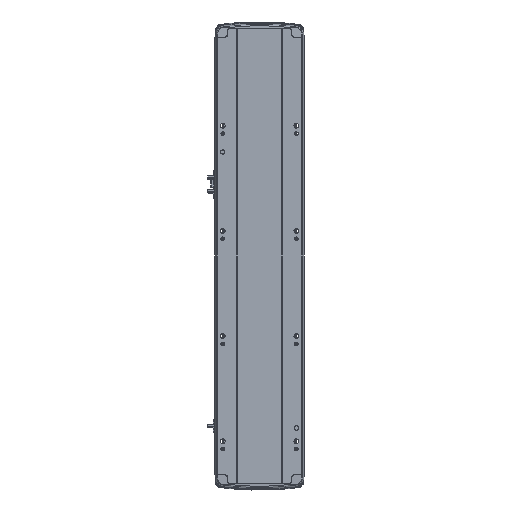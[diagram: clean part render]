
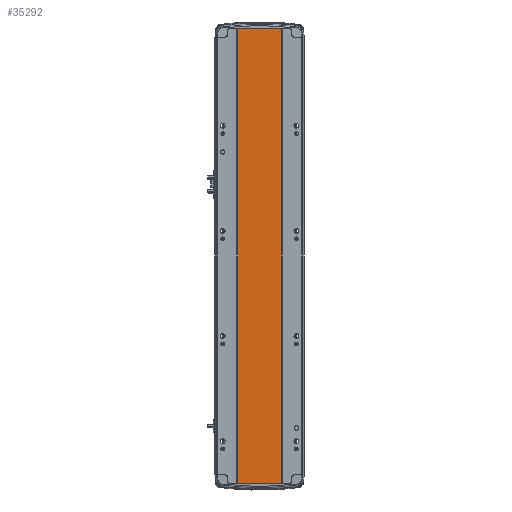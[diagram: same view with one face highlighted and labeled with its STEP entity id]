
A CAD part, front view. The second image highlights one B-rep face of the part: STEP entity #35292.
In plain terms, the highlighted planar face has unit normal (0, -1, 0).
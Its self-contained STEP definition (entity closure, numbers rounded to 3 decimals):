
#924 = VECTOR ( 'NONE', #30916, 1000. ) ;
#1181 = LINE ( 'NONE', #17425, #16124 ) ;
#2714 = EDGE_CURVE ( 'NONE', #30513, #20154, #34009, .T. ) ;
#3059 = CARTESIAN_POINT ( 'NONE',  ( 41.793, 0.998, 864.5 ) ) ;
#4538 = CARTESIAN_POINT ( 'NONE',  ( -41.791, 1., 864.5 ) ) ;
#5071 = ORIENTED_EDGE ( 'NONE', *, *, #34837, .F. ) ;
#7079 = ORIENTED_EDGE ( 'NONE', *, *, #2714, .T. ) ;
#7590 = DIRECTION ( 'NONE',  ( -1., 0., 0. ) ) ;
#8258 = CARTESIAN_POINT ( 'NONE',  ( 41.793, 0.998, 0. ) ) ;
#8982 = EDGE_LOOP ( 'NONE', ( #14682, #21818, #5071, #7079 ) ) ;
#14682 = ORIENTED_EDGE ( 'NONE', *, *, #24158, .T. ) ;
#16124 = VECTOR ( 'NONE', #26313, 1000. ) ;
#17336 = LINE ( 'NONE', #28222, #924 ) ;
#17425 = CARTESIAN_POINT ( 'NONE',  ( 41.793, 0.998, 864.5 ) ) ;
#18497 = CARTESIAN_POINT ( 'NONE',  ( 0., 0.999, 864.5 ) ) ;
#20154 = VERTEX_POINT ( 'NONE', #20951 ) ;
#20951 = CARTESIAN_POINT ( 'NONE',  ( -41.791, 1., 0. ) ) ;
#21818 = ORIENTED_EDGE ( 'NONE', *, *, #39339, .F. ) ;
#22804 = DIRECTION ( 'NONE',  ( 0., 1., 0. ) ) ;
#23352 = DIRECTION ( 'NONE',  ( 0., 0., -1. ) ) ;
#24158 = EDGE_CURVE ( 'NONE', #20154, #24495, #38500, .T. ) ;
#24495 = VERTEX_POINT ( 'NONE', #8258 ) ;
#24840 = VECTOR ( 'NONE', #23352, 1000. ) ;
#26274 = CARTESIAN_POINT ( 'NONE',  ( -41.791, 1., 864.5 ) ) ;
#26313 = DIRECTION ( 'NONE',  ( 0., 0., -1. ) ) ;
#28222 = CARTESIAN_POINT ( 'NONE',  ( 0., 0.999, 864.5 ) ) ;
#29834 = FACE_OUTER_BOUND ( 'NONE', #8982, .T. ) ;
#30373 = CARTESIAN_POINT ( 'NONE',  ( 0., 0.999, 0. ) ) ;
#30513 = VERTEX_POINT ( 'NONE', #26274 ) ;
#30916 = DIRECTION ( 'NONE',  ( 1., 0., 0. ) ) ;
#33478 = DIRECTION ( 'NONE',  ( 1., 0., 0. ) ) ;
#34009 = LINE ( 'NONE', #4538, #24840 ) ;
#34540 = AXIS2_PLACEMENT_3D ( 'NONE', #18497, #22804, #7590 ) ;
#34837 = EDGE_CURVE ( 'NONE', #30513, #37961, #17336, .T. ) ;
#35292 = ADVANCED_FACE ( 'NONE', ( #29834 ), #39797, .F. ) ;
#37069 = VECTOR ( 'NONE', #33478, 1000. ) ;
#37961 = VERTEX_POINT ( 'NONE', #3059 ) ;
#38500 = LINE ( 'NONE', #30373, #37069 ) ;
#39339 = EDGE_CURVE ( 'NONE', #37961, #24495, #1181, .T. ) ;
#39797 = PLANE ( 'NONE',  #34540 ) ;
